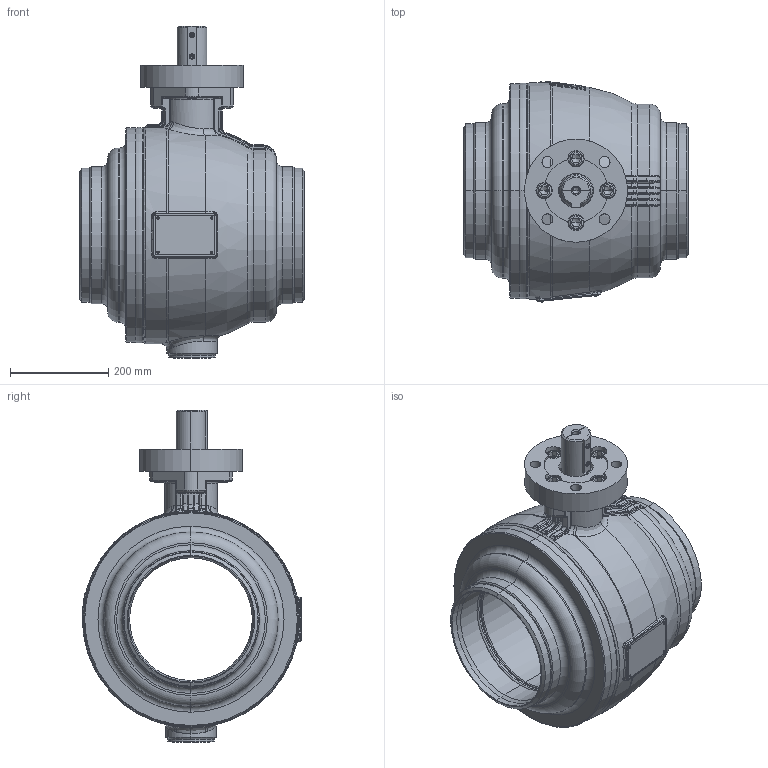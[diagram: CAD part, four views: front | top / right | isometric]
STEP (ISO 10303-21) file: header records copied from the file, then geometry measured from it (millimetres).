
FILE_DESCRIPTION((''),'2;1');
FILE_NAME('KHSVI_250_VVS-FG_FR_WE_F16','2026-01-27T14:11:08',('schwaba'),('KLINGER'),'CREO PARAMETRIC BY PTC INC, 2023014','CREO PARAMETRIC BY PTC INC, 2023014','');
FILE_SCHEMA(('CONFIG_CONTROL_DESIGN'));
Products named in the file (1): KHSVI_250_VVS-FG_FR_WE_F16
Bounding box: 457 x 448.03 x 676.14 mm (x, y, z)
Volume: 20006320.2 mm3; surface area: 2585738.3 mm2
Topology: 1 solids, 3 shells, 1449 faces, 3651 edges, 2248 vertices
Faces by surface type: plane 615, cylinder 324, torus 204, bspline 177, cone 109, sphere 20
Entity records: 89674 total; most frequent: CARTESIAN_POINT 57031, ORIENTED_EDGE 7266, DIRECTION 6284, EDGE_CURVE 3633, AXIS2_PLACEMENT_3D 2586, VERTEX_POINT 2248, EDGE_LOOP 1551, FACE_OUTER_BOUND 1449
